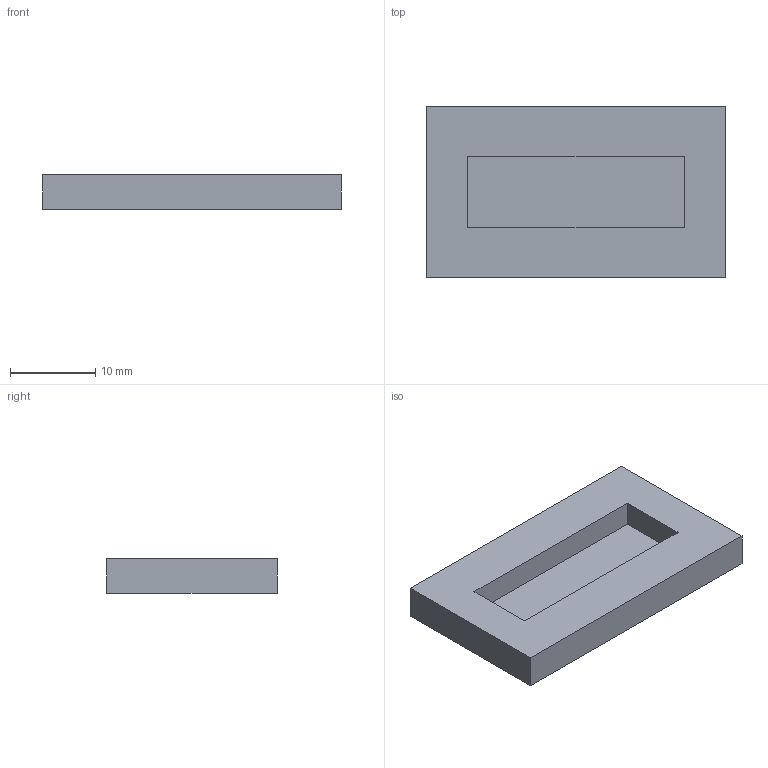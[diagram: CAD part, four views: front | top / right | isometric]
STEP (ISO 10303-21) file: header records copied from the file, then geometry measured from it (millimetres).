
FILE_DESCRIPTION(('FreeCAD Model'),'2;1');
FILE_NAME('Open CASCADE Shape Model','2026-11-20T08:25:39',('FreeCAD'),( 'FreeCAD'),'Open CASCADE STEP processor 7.8','FreeCAD','Unknown');
FILE_SCHEMA(('AUTOMOTIVE_DESIGN { 1 0 10303 214 1 1 1 1 }'));
Length unit declared in the file: millimetre
Products named in the file (1): Open CASCADE STEP translator 7.8 95
Bounding box: 35 x 20 x 4 mm (x, y, z)
Volume: 2159.9 mm3; surface area: 2042.8 mm2
Topology: 1 solids, 1 shells, 11 faces, 24 edges, 16 vertices
Faces by surface type: plane 11
Entity records: 308 total; most frequent: CARTESIAN_POINT 52, DIRECTION 48, ORIENTED_EDGE 48, EDGE_CURVE 24, LINE 24, VECTOR 24, VERTEX_POINT 16, AXIS2_PLACEMENT_3D 12
